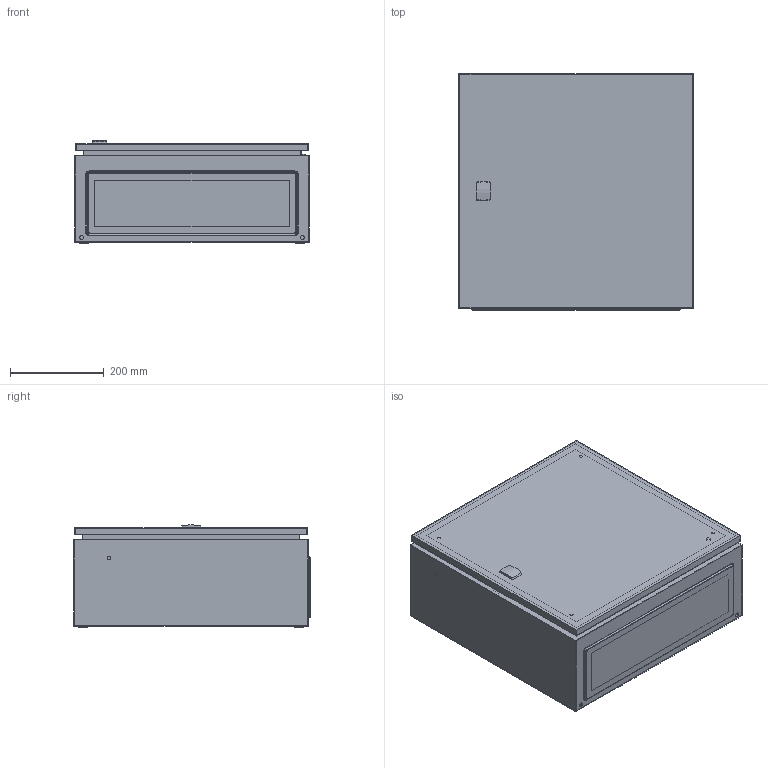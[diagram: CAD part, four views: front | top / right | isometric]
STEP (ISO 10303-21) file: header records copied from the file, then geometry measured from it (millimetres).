
FILE_DESCRIPTION( ( 'STEP AP214' ), '1' );
FILE_NAME( 'p:/temp/worker_165/temp/exporttempdir_4960_362_xndrP/format_0/MAS0505021R5(0).stp', '2021-03-15T19:41:42', ( 'License CC BY-ND 4.0' ), ( 'CADENAS' ), ' ', 'PARTsolutions', ' ' );
FILE_SCHEMA( ( 'AUTOMOTIVE_DESIGN { 1 0 10303 214 1 1 1 1 }' ) );
Length unit declared in the file: millimetre
Products named in the file (8): MAS0505021R5(0); _MAS0505021(0); _MMSH06SS(0)_right; _ADP05050R5(0); _ALL503(0,0); _AMP05050_MPL(0); _AF03R5_GP(0); _AG03_GPG(0)
Assembly tree (8 placements, depth 2):
  MAS0505021R5(0)
    _MAS0505021(0)
    _MMSH06SS(0)_right  x2
    _ADP05050R5(0)
    _ALL503(0,0)
    _AMP05050_MPL(0)
    _AF03R5_GP(0)
    _AG03_GPG(0)
Bounding box: 500 x 503.9 x 217.67 mm (x, y, z)
Volume: 2137806.4 mm3; surface area: 2488811.8 mm2
Topology: 8 solids, 8 shells, 369 faces, 876 edges, 570 vertices
Faces by surface type: plane 237, cylinder 84, cone 47, torus 1
Full cylindrical faces by diameter (mm): 4.9 x2, 6 x4, 7 x4, 8 x7, 8.5 x4, 8.7 x2, 9 x2, 14 x7, 18 x1, 27 x1
Entity records: 12557 total; most frequent: CARTESIAN_POINT 1772, DIRECTION 1645, ORIENTED_EDGE 1484, EDGE_CURVE 742, AXIS2_PLACEMENT_3D 581, VERTEX_POINT 524, EDGE_LOOP 487, LINE 483
